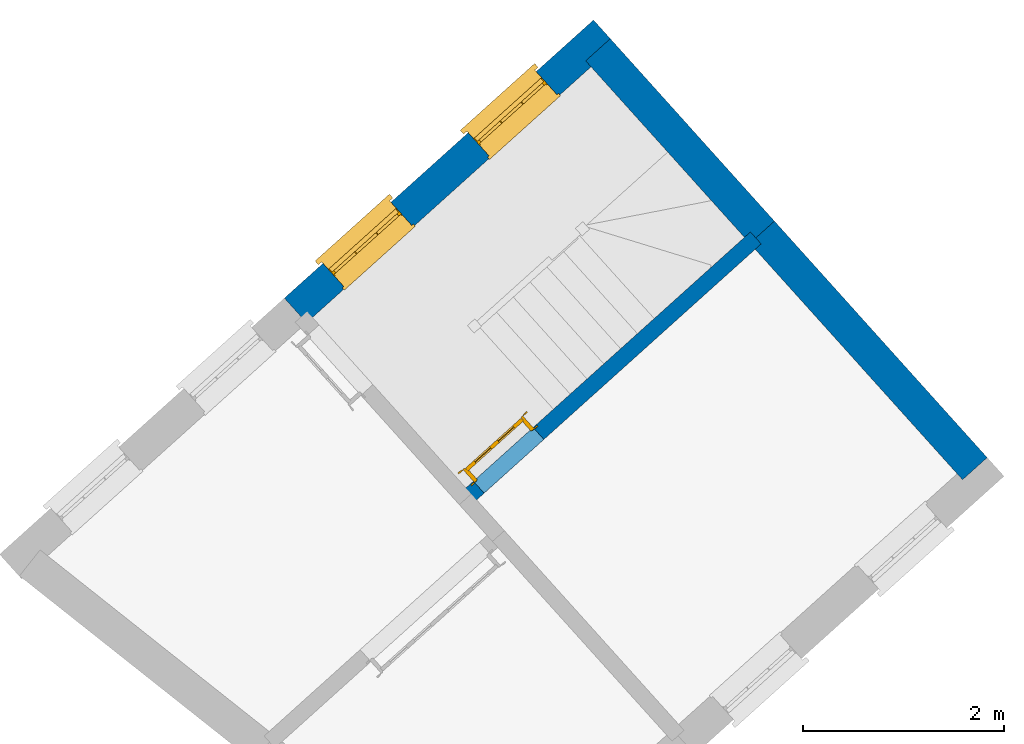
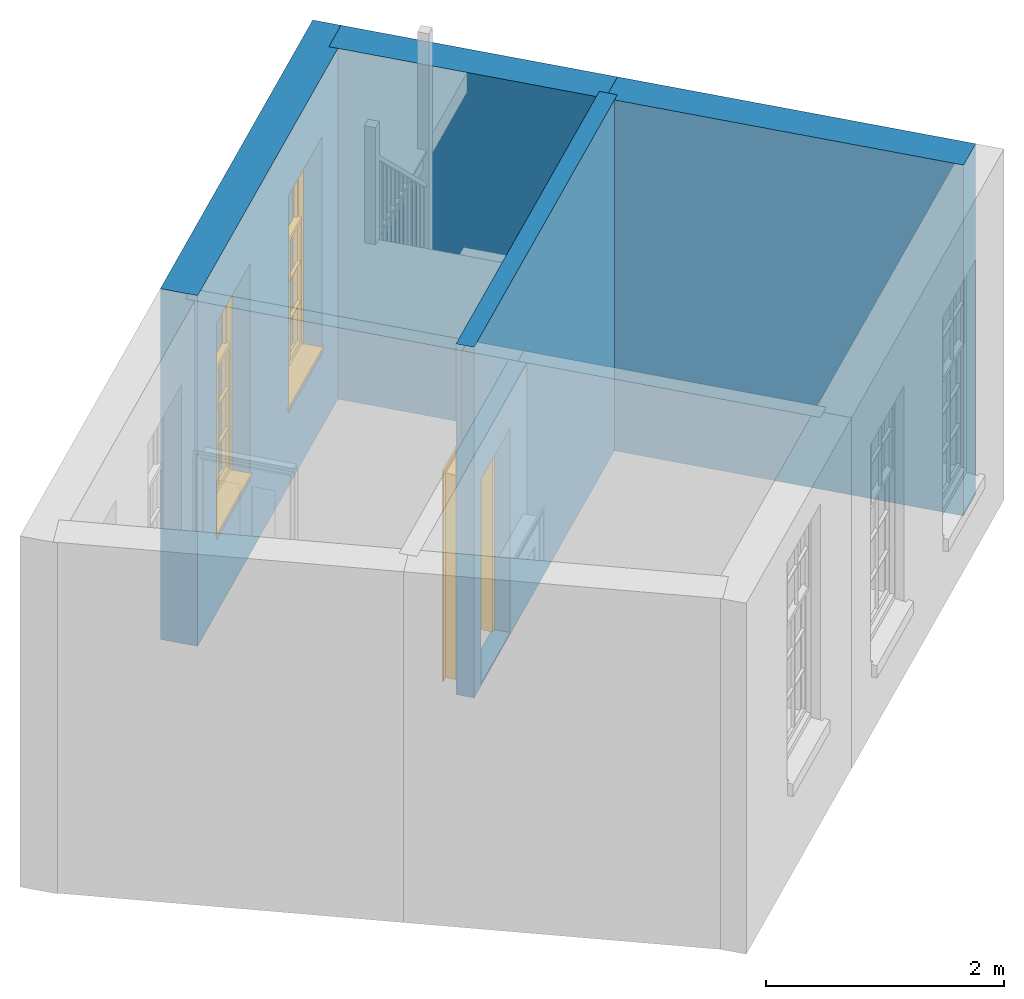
# One storey, part 3 of 4: 4 walls, 2 windows, 1 door, 3 openings.
"""IFC4 building model written with IfcOpenShell, lengths in metres."""

from ifc_helpers import new_model, si_unit, frame, origin, origin_with_axes, place, context, subcontext, project, spatial, polyline, outline, extrude, faceted_brep, source, transform, mapped, material, layer, layer_set, layer_usage, type_object, type_shapes, element, fill, save


model = new_model("IFC4")

# Units and contexts
model_context = context("Model", 3, world=origin_with_axes())
body_context = subcontext(model_context, "Body", "Model", "MODEL_VIEW")
ifc_project = project(units=[si_unit("PLANEANGLEUNIT", "RADIAN"), si_unit("MASSUNIT", "GRAM", prefix="KILO"), si_unit("FORCEUNIT", "NEWTON", prefix="KILO"), si_unit("LENGTHUNIT", "METRE"), si_unit("AREAUNIT", "SQUARE_METRE"), si_unit("VOLUMEUNIT", "CUBIC_METRE")], contexts=[model_context, model_context])

# Sites, building, storey
site_1_placement = place(None, origin_with_axes())
site_1 = spatial("IfcSite", under=ifc_project, at=site_1_placement, Name="Tamar")
site_2_placement = place(site_1_placement, origin_with_axes())
site_2 = spatial("IfcSite", under=site_1, at=site_2_placement, Name="Site plot-6", CompositionType="ELEMENT")
building_placement = place(None, origin_with_axes())
building = spatial("IfcBuilding", under=site_2, at=building_placement, Name="Building plot-6", CompositionType="ELEMENT")
storey_placement = place(None, frame((0.0, 0.0, 28.1), z_axis=(0.0, 0.0, 1.0), x_axis=(1.0, 0.0, 0.0)))
storey = spatial("IfcBuildingStorey", under=building, at=storey_placement, Name="plot-6 1", CompositionType="ELEMENT", Elevation=28.1)

# Wall, openings, windows
ifc_material_1 = material(Name="Masonry")
ifc_layer_1 = layer(ifc_material_1, 0.33, ventilated=False)
ifc_layer_set_1 = layer_set([ifc_layer_1], Name="exterior_0.08_0.25")
ifc_layer_usage_1 = layer_usage(ifc_layer_set_1, "AXIS2", "POSITIVE", -0.25)
wall_type_1 = type_object("IfcWallType", Name="exterior_0.08_0.25", PredefinedType="SOLIDWALL", material=ifc_layer_set_1)
wall_1_placement = place(storey_placement, frame((236.903086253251, 284.792318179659, 0.0), z_axis=(0.0, 0.0, 1.0), x_axis=(-0.743394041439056, -0.668853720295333, 0.0)))
wall_1 = element("IfcWall", 1, at=wall_1_placement, inside=storey, type_object=wall_type_1, material=ifc_layer_usage_1, Name="exterior", context=body_context, shape_type="SweptSolid", body=[
    extrude(outline(polyline([(-0.250000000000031, 0.0799999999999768), (-0.250000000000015, -0.250000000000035), (3.89063342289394, -0.250000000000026), (3.89063342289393, 0.0799999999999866), (-0.250000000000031, 0.0799999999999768)])), origin_with_axes(), (0.0, 0.0, 1.0), 3.6),
])
opening_1_placement = place(wall_1_placement, frame((0.51765835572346, 0.0, 0.75)))
opening_1 = element("IfcOpeningElement", 2, at=opening_1_placement, cuts=wall_1, Name="My Opening", ObjectType="Opening", context=body_context, shape_type="SweptSolid", body=[
    extrude(outline(polyline([(0.0, -0.270000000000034), (0.910000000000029, -0.269999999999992), (0.910000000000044, 1.10000000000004), (1.4432899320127e-14, 1.1), (0.0, -0.270000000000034)])), origin_with_axes(), (0.0, 0.0, 1.0), 2.23),
])
opening_2_placement = place(wall_1_placement, frame((2.46297506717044, 0.0, 0.75)))
opening_2 = element("IfcOpeningElement", 3, at=opening_2_placement, cuts=wall_1, Name="My Opening", ObjectType="Opening", context=body_context, shape_type="SweptSolid", body=[
    extrude(outline(polyline([(0.0, -0.270000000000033), (0.910000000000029, -0.269999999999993), (0.910000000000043, 1.10000000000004), (1.37667655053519e-14, 1.1), (0.0, -0.270000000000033)])), origin_with_axes(), (0.0, 0.0, 1.0), 2.23),
])
window_type = type_object("IfcWindowType", Name="sash_big_taller", PartitioningType="DOUBLE_PANEL_HORIZONTAL", PredefinedType="NOTDEFINED")
shared_shape_1 = source(origin(), body_context, "Body", "Brep", [
    faceted_brep([(0.033125, 0.145, 1.385209), (0.01, 0.145, 1.385209), (0.033125, 0.145, 1.786042), (0.876875, 0.145, 1.385209), (0.876875, 0.145, 1.786042), (0.9, 0.145, 1.385209), (0.876875, 0.145, 1.796042), (0.876875, 0.145, 2.196875), (0.9, 0.145, 2.22), (0.033125, 0.145, 2.196875), (0.033125, 0.145, 1.796042), (0.01, 0.145, 2.22), (0.876875, 0.115, 1.786042), (0.876875, 0.115, 1.385209), (0.9, 0.115, 1.347084), (0.033125, 0.115, 2.196875), (0.01, 0.115, 2.22), (0.033125, 0.115, 1.796042), (0.01, 0.115, 1.347084), (0.033125, 0.115, 1.385209), (0.033125, 0.115, 1.786042), (0.876875, 0.115, 2.196875), (0.876875, 0.115, 1.796042), (0.9, 0.115, 2.22), (0.033125, 0.145, 1.347084), (0.01, 0.145, 1.347084), (0.033125, 0.145, 0.94625), (0.876875, 0.145, 1.347084), (0.876875, 0.145, 0.94625), (0.9, 0.145, 1.347084), (0.876875, 0.145, 0.52625), (0.876875, 0.145, 0.125417), (0.9, 0.145, 0.077167), (0.033125, 0.145, 0.125417), (0.033125, 0.145, 0.52625), (0.01, 0.145, 0.077167), (-0.0425, 0.0, 0.01), (-0.0425, -0.05, 0.001667), (0.0, 0.0, 0.01), (0.9525, 0.0, 0.01), (0.91, 0.0, 0.01), (0.9525, -0.05, 0.001667), (-0.02, 0.33, 0.077167), (0.0, 0.33, 0.077167), (-0.02, 0.36, 0.077167), (0.0, 0.19, 0.077167), (0.01, 0.19, 0.077167), (0.91, 0.19, 0.077167), (0.91, 0.33, 0.077167), (0.9, 0.19, 0.077167), (0.93, 0.33, 0.077167), (0.93, 0.36, 0.077167), (0.01, 0.175, 1.385209), (0.9, 0.175, 1.385209), (0.876875, 0.175, 0.125417), (0.876875, 0.175, 0.52625), (0.9, 0.175, 0.077167), (0.876875, 0.175, 0.94625), (0.876875, 0.175, 1.347084), (0.033125, 0.175, 0.125417), (0.01, 0.175, 0.077167), (0.033125, 0.175, 0.52625), (0.033125, 0.175, 1.347084), (0.033125, 0.175, 0.94625), (-0.02, 0.33, 0.052167), (-0.02, 0.36, 0.052167), (0.93, 0.36, 0.052167), (0.93, 0.33, 0.052167), (0.91, 0.33, 0.052167), (0.0, 0.33, 0.052167), (0.91, 0.1, 0.026667), (0.0, 0.1, 0.026667), (-0.0425, -0.05, -0.123333), (0.9525, -0.05, -0.123333), (-0.0425, 0.0, -0.123333), (0.9525, 0.0, -0.123333), (0.01, 0.19, 2.22), (0.9, 0.19, 2.22), (0.0, 0.19, 2.23), (0.91, 0.19, 2.23), (0.01, 0.1, 0.077167), (0.9, 0.1, 0.077167), (0.592292, 0.145, 0.125417), (0.592292, 0.175, 0.125417), (0.317708, 0.175, 0.125417), (0.317708, 0.145, 0.125417), (0.592292, 0.145, 0.53625), (0.317708, 0.145, 0.53625), (0.317708, 0.145, 0.52625), (0.592292, 0.145, 0.52625), (0.592292, 0.175, 0.53625), (0.317708, 0.175, 0.53625), (0.592292, 0.115, 1.796042), (0.592292, 0.145, 1.796042), (0.317708, 0.145, 1.796042), (0.317708, 0.115, 1.796042), (0.317708, 0.115, 1.786042), (0.592292, 0.115, 1.786042), (0.317708, 0.145, 1.786042), (0.592292, 0.145, 1.786042), (0.602292, 0.115, 1.786042), (0.592292, 0.115, 1.385209), (0.602292, 0.115, 1.385209), (0.602292, 0.145, 1.385209), (0.592292, 0.145, 1.385209), (0.602292, 0.145, 1.786042), (0.876875, 0.145, 0.53625), (0.876875, 0.175, 0.53625), (0.602292, 0.175, 0.53625), (0.602292, 0.145, 0.53625), (0.317708, 0.175, 0.52625), (0.307708, 0.175, 0.125417), (0.307708, 0.175, 0.52625), (0.602292, 0.175, 0.52625), (0.602292, 0.175, 0.125417), (0.592292, 0.175, 0.52625), (0.307708, 0.175, 0.53625), (0.033125, 0.175, 0.53625), (0.317708, 0.175, 1.347084), (0.317708, 0.175, 0.94625), (0.307708, 0.175, 0.94625), (0.307708, 0.175, 1.347084), (0.602292, 0.175, 1.347084), (0.602292, 0.175, 0.94625), (0.592292, 0.175, 0.94625), (0.592292, 0.175, 1.347084), (0.307708, 0.145, 0.52625), (0.307708, 0.145, 0.125417), (0.307708, 0.145, 0.53625), (0.033125, 0.145, 0.53625), (0.307708, 0.145, 1.347084), (0.307708, 0.145, 0.94625), (0.592292, 0.145, 1.347084), (0.592292, 0.145, 0.94625), (0.317708, 0.145, 0.94625), (0.317708, 0.145, 1.347084), (0.602292, 0.145, 0.94625), (0.602292, 0.145, 1.347084), (0.602292, 0.145, 0.52625), (0.602292, 0.145, 0.125417), (0.307708, 0.115, 1.796042), (0.307708, 0.115, 1.786042), (0.307708, 0.115, 1.385209), (0.317708, 0.115, 1.385209), (0.317708, 0.115, 2.196875), (0.307708, 0.115, 2.196875), (0.602292, 0.115, 2.196875), (0.592292, 0.115, 2.196875), (0.602292, 0.115, 1.796042), (0.602292, 0.145, 1.796042), (0.307708, 0.145, 1.796042), (0.307708, 0.145, 2.196875), (0.317708, 0.145, 2.196875), (0.592292, 0.145, 2.196875), (0.602292, 0.145, 2.196875), (0.307708, 0.145, 1.786042), (0.317708, 0.145, 1.385209), (0.307708, 0.145, 1.385209), (0.876875, 0.175, 0.93625), (0.033125, 0.175, 0.93625), (0.033125, 0.145, 0.93625), (0.876875, 0.145, 0.93625), (0.91, 0.1, 2.23), (0.9, 0.1, 2.22), (0.01, 0.1, 2.22), (0.0, 0.1, 2.23), (0.91, 0.0, 0.0), (0.0, 0.0, 0.0), (0.91, 0.33, 0.0), (0.0, 0.33, 0.0), (0.317708, 0.145, 0.93625), (0.592292, 0.145, 0.93625), (0.317708, 0.175, 0.93625), (0.307708, 0.175, 0.93625), (0.602292, 0.175, 0.93625), (0.592292, 0.175, 0.93625), (0.307708, 0.145, 0.93625), (0.602292, 0.145, 0.93625)], [[[0, 1, 2]], [[3, 4, 5]], [[6, 7, 8]], [[9, 10, 11]], [[12, 13, 14]], [[15, 16, 17]], [[18, 19, 20]], [[21, 22, 23]], [[24, 25, 26]], [[27, 28, 29]], [[30, 31, 32]], [[33, 34, 35]], [[14, 27, 29]], [[25, 24, 18]], [[36, 37, 38]], [[39, 40, 41]], [[42, 43, 44]], [[45, 46, 43]], [[47, 48, 49]], [[50, 51, 48]], [[1, 0, 52]], [[5, 53, 3]], [[54, 55, 56]], [[57, 58, 53]], [[59, 60, 61]], [[62, 63, 52]], [[48, 43, 46, 49]], [[51, 44, 43, 48]], [[64, 42, 44, 65]], [[65, 44, 51, 66]], [[66, 51, 50, 67]], [[65, 66, 68, 69]], [[60, 56, 49, 46]], [[70, 71, 38, 40]], [[37, 41, 40, 38]], [[37, 72, 73, 41]], [[74, 75, 73, 72]], [[8, 11, 76, 77]], [[76, 78, 79, 77]], [[32, 35, 80, 81]], [[81, 80, 71, 70]], [[82, 83, 84, 85]], [[86, 87, 88, 89]], [[86, 90, 91, 87]], [[92, 93, 94, 95]], [[92, 95, 96, 97]], [[96, 98, 99, 97]], [[100, 97, 101, 102]], [[103, 104, 99, 105]], [[97, 99, 104, 101]], [[102, 103, 105, 100]], [[106, 107, 108, 109]], [[110, 84, 111, 112]], [[113, 114, 83, 115]], [[116, 112, 61, 117]], [[90, 115, 110, 91]], [[118, 119, 120, 121]], [[122, 123, 124, 125]], [[113, 108, 107, 55]], [[126, 112, 111, 127]], [[34, 61, 112, 126]], [[89, 115, 83, 82]], [[88, 110, 115, 89]], [[85, 84, 110, 88]], [[128, 116, 117, 129]], [[130, 121, 120, 131]], [[132, 125, 124, 133]], [[134, 119, 118, 135]], [[136, 123, 122, 137]], [[138, 113, 55, 30]], [[139, 114, 113, 138]], [[138, 30, 106, 109]], [[88, 126, 127, 85]], [[138, 89, 82, 139]], [[137, 132, 133, 136]], [[128, 129, 34, 126]], [[135, 130, 131, 134]], [[140, 17, 20, 141]], [[96, 141, 142, 143]], [[144, 145, 140, 95]], [[146, 147, 92, 148]], [[100, 12, 22, 148]], [[149, 6, 4, 105]], [[94, 150, 151, 152]], [[149, 93, 153, 154]], [[99, 98, 94, 93]], [[155, 2, 10, 150]], [[156, 157, 155, 98]], [[141, 155, 157, 142]], [[20, 2, 155, 141]], [[143, 156, 98, 96]], [[140, 150, 10, 17]], [[145, 151, 150, 140]], [[147, 153, 93, 92]], [[95, 94, 152, 144]], [[22, 6, 149, 148]], [[148, 149, 154, 146]], [[100, 105, 4, 12]], [[109, 86, 89, 138]], [[108, 113, 115, 90]], [[91, 110, 112, 116]], [[87, 128, 126, 88]], [[97, 100, 148, 92]], [[141, 96, 95, 140]], [[98, 155, 150, 94]], [[105, 99, 93, 149]], [[143, 101, 104, 156]], [[135, 118, 125, 132]], [[144, 152, 153, 147]], [[127, 111, 59, 33]], [[15, 9, 151, 145]], [[146, 154, 7, 21]], [[31, 54, 114, 139]], [[36, 74, 72, 37]], [[39, 41, 73, 75]], [[18, 14, 101, 143]], [[23, 16, 144, 147]], [[83, 56, 60, 84]], [[52, 53, 125, 118]], [[53, 52, 156, 104]], [[11, 8, 153, 152]], [[14, 18, 135, 132]], [[2, 1, 11, 10]], [[8, 5, 4, 6]], [[57, 53, 56, 158]], [[60, 52, 63, 159]], [[26, 25, 35, 160]], [[32, 29, 28, 161]], [[14, 23, 22, 12]], [[18, 20, 17, 16]], [[19, 0, 2, 20]], [[17, 10, 9, 15]], [[12, 4, 3, 13]], [[21, 7, 6, 22]], [[27, 58, 57, 28]], [[30, 55, 54, 31]], [[33, 59, 61, 34]], [[26, 63, 62, 24]], [[5, 8, 77, 53]], [[76, 11, 1, 52]], [[46, 45, 78, 76]], [[49, 77, 79, 47]], [[70, 162, 163, 81]], [[71, 80, 164, 165]], [[19, 142, 157, 0]], [[102, 13, 3, 103]], [[121, 130, 24, 62]], [[29, 32, 81, 14]], [[80, 35, 25, 18]], [[60, 46, 76, 52]], [[77, 49, 56, 53]], [[23, 14, 81, 163]], [[16, 164, 80, 18]], [[35, 85, 127]], [[127, 33, 35]], [[139, 82, 32]], [[32, 31, 139]], [[32, 82, 85, 35]], [[102, 101, 14]], [[14, 13, 102]], [[18, 143, 142]], [[142, 19, 18]], [[146, 21, 23]], [[23, 147, 146]], [[16, 15, 145]], [[145, 144, 16]], [[11, 152, 151]], [[151, 9, 11]], [[154, 153, 8]], [[8, 7, 154]], [[23, 163, 164, 16]], [[162, 165, 164, 163]], [[52, 118, 121]], [[121, 62, 52]], [[125, 53, 122]], [[58, 122, 53]], [[27, 137, 122, 58]], [[56, 83, 114]], [[114, 54, 56]], [[111, 84, 60]], [[60, 59, 111]], [[137, 27, 14]], [[14, 132, 137]], [[130, 135, 18]], [[18, 24, 130]], [[157, 156, 52]], [[52, 0, 157]], [[103, 3, 53]], [[53, 104, 103]], [[79, 78, 165, 162]], [[78, 45, 71, 165]], [[162, 70, 47, 79]], [[166, 75, 74, 167]], [[68, 66, 67]], [[48, 68, 67, 50]], [[69, 64, 65]], [[42, 64, 69, 43]], [[69, 68, 168, 169]], [[70, 68, 48, 47]], [[166, 168, 68, 70]], [[43, 69, 71, 45]], [[69, 169, 167, 71]], [[168, 166, 167, 169]], [[38, 167, 74, 36]], [[71, 167, 38]], [[39, 75, 166, 40]], [[40, 166, 70]], [[133, 134, 170, 171]], [[133, 124, 119, 134]], [[28, 57, 123, 136]], [[172, 91, 116, 173]], [[174, 108, 90, 175]], [[120, 173, 159, 63]], [[124, 175, 172, 119]], [[174, 123, 57, 158]], [[176, 173, 116, 128]], [[160, 159, 173, 176]], [[171, 175, 90, 86]], [[170, 172, 175, 171]], [[87, 91, 172, 170]], [[131, 120, 63, 26]], [[177, 174, 158, 161]], [[109, 108, 174, 177]], [[177, 161, 28, 136]], [[170, 176, 128, 87]], [[177, 171, 86, 109]], [[131, 26, 160, 176]], [[136, 133, 171, 177]], [[123, 174, 175, 124]], [[119, 172, 173, 120]], [[134, 131, 176, 170]], [[129, 117, 159, 160]], [[161, 158, 107, 106]], [[35, 34, 129]], [[35, 129, 160]], [[32, 106, 30]], [[32, 161, 106]], [[56, 55, 107]], [[56, 107, 158]], [[60, 117, 61]], [[60, 159, 117]]]),
])
type_shapes(window_type, [shared_shape_1])
window_1_placement = place(storey_placement, frame((236.337671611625, 284.64679685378, 0.75), z_axis=(0.0, 0.0, 1.0), x_axis=(-0.676488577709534, -0.608656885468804, 0.0)))
window_1 = element("IfcWindow", 4, at=window_1_placement, inside=storey, type_object=window_type, Name="circulation outside window", OverallHeight=2.23, OverallWidth=0.91, context=body_context, shape_type="MappedRepresentation", body=[
    mapped(shared_shape_1, transform((0.0, 0.0, 0.0), scale=1.0)),
])
fill(opening_1, window_1)
window_2_placement = place(storey_placement, frame((234.891534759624, 283.345664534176, 0.75), z_axis=(0.0, 0.0, 1.0), x_axis=(-0.676488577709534, -0.608656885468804, 0.0)))
window_2 = element("IfcWindow", 5, at=window_2_placement, inside=storey, type_object=window_type, Name="circulation outside window", OverallHeight=2.23, OverallWidth=0.91, context=body_context, shape_type="MappedRepresentation", body=[
    mapped(shared_shape_1, transform((0.0, 0.0, 0.0), scale=1.0)),
])
fill(opening_2, window_2)

# Walls
ifc_material_2 = material(Name="Masonry")
ifc_layer_2 = layer(ifc_material_2, 0.33, ventilated=False)
ifc_layer_set_2 = layer_set([ifc_layer_2], Name="party_0.08_0.25")
ifc_layer_usage_2 = layer_usage(ifc_layer_set_2, "AXIS2", "POSITIVE", -0.25)
wall_type_2 = type_object("IfcWallType", Name="party_0.08_0.25", PredefinedType="SOLIDWALL", material=ifc_layer_set_2)
wall_2_placement = place(storey_placement, frame((240.655799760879, 280.621383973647, 0.0), z_axis=(0.0, 0.0, 1.0), x_axis=(-0.668853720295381, 0.743394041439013, 0.0)))
element("IfcWall", 6, at=wall_2_placement, inside=storey, type_object=wall_type_2, material=ifc_layer_usage_2, Name="party", context=body_context, shape_type="SweptSolid", body=[
    extrude(outline(polyline([(-2.09120248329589e-15, 0.080000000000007), (-6.97909697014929e-15, -0.250000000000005), (3.16673048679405, -0.250000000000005), (3.16673048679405, 0.0800000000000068), (-2.09120248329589e-15, 0.080000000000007)])), origin_with_axes(), (0.0, 0.0, 1.0), 3.6),
])
wall_3_placement = place(storey_placement, frame((238.537720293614, 282.975512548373, 0.0), z_axis=(0.0, 0.0, 1.0), x_axis=(-0.668853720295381, 0.743394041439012, 0.0)))
element("IfcWall", 7, at=wall_3_placement, inside=storey, type_object=wall_type_2, material=ifc_layer_usage_2, Name="party", context=body_context, shape_type="SweptSolid", body=[
    extrude(outline(polyline([(-2.09120248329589e-15, 0.080000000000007), (-6.97909697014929e-15, -0.250000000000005), (2.44393353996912, -0.250000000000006), (2.44393353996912, 0.0800000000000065), (-2.09120248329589e-15, 0.080000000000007)])), origin_with_axes(), (0.0, 0.0, 1.0), 3.6),
])

# Wall, opening, door
ifc_material_3 = material(Name="Masonry")
ifc_layer_3 = layer(ifc_material_3, 0.16, ventilated=False)
ifc_layer_set_3 = layer_set([ifc_layer_3], Name="interior_0.08_0.08")
ifc_layer_usage_3 = layer_usage(ifc_layer_set_3, "AXIS2", "POSITIVE", -0.08)
wall_type_3 = type_object("IfcWallType", Name="interior_0.08_0.08", PredefinedType="SOLIDWALL", material=ifc_layer_set_3)
wall_4_placement = place(storey_placement, frame((235.645446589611, 280.373247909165, 0.0), z_axis=(0.0, 0.0, 1.0), x_axis=(0.743394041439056, 0.668853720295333, 0.0)))
wall_4 = element("IfcWall", 8, at=wall_4_placement, inside=storey, type_object=wall_type_3, material=ifc_layer_usage_3, Name="interior", context=body_context, shape_type="SweptSolid", body=[
    extrude(outline(polyline([(-2.62141283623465e-14, 0.0799999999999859), (2.62416891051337e-14, -0.0799999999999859), (3.89063342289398, -0.0799999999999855), (3.89063342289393, 0.0799999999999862), (-2.62141283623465e-14, 0.0799999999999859)])), origin_with_axes(), (0.0, 0.0, 1.0), 3.6),
])
opening_3_placement = place(wall_4_placement, frame((0.179999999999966, 0.0, 0.0199999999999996)))
opening_3 = element("IfcOpeningElement", 9, at=opening_3_placement, cuts=wall_4, Name="My Opening", ObjectType="Opening", context=body_context, shape_type="SweptSolid", body=[
    extrude(outline(polyline([(0.0, -0.100000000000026), (0.800000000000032, -0.0999999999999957), (0.800000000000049, 1.10000000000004), (1.62092561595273e-14, 1.10000000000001), (0.0, -0.100000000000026)])), origin_with_axes(), (0.0, 0.0, 1.0), 2.1),
])
door_type = type_object("IfcDoorType", Name="door_inside", OperationType="SINGLE_SWING_LEFT", PredefinedType="NOTDEFINED")
shared_shape_2 = source(origin(), body_context, "Body", "Brep", [
    faceted_brep([(0.773, 0.33, 1.895), (0.66, 0.33, 1.895), (0.66, 0.33, 2.073), (0.773, 0.33, 2.073), (0.773, 0.33, 0.82), (0.66, 0.33, 0.82), (0.45, 0.33, 1.895), (0.45, 0.33, 2.073), (0.773, 0.33, 0.62), (0.66, 0.33, 0.62), (0.66, 0.315, 0.82), (0.66, 0.315, 1.895), (0.45, 0.315, 1.895), (0.35, 0.33, 1.895), (0.35, 0.33, 2.073), (0.773, 0.33, 0.225), (0.66, 0.33, 0.225), (0.45, 0.33, 0.62), (0.45, 0.33, 0.82), (0.45, 0.315, 0.82), (0.35, 0.33, 0.82), (0.14, 0.33, 2.073), (0.14, 0.33, 1.895), (0.773, 0.33, 0.0), (0.66, 0.33, 0.0), (0.66, 0.315, 0.225), (0.66, 0.315, 0.62), (0.45, 0.315, 0.62), (0.35, 0.33, 0.62), (0.35, 0.315, 0.82), (0.35, 0.315, 1.895), (0.14, 0.315, 1.895), (0.027, 0.33, 2.073), (0.027, 0.33, 1.895), (0.773, 0.292, 0.0), (0.66, 0.292, 0.0), (0.45, 0.33, 0.0), (0.45, 0.33, 0.225), (0.45, 0.315, 0.225), (0.35, 0.33, 0.225), (0.14, 0.33, 0.82), (0.14, 0.33, 0.62), (0.14, 0.315, 0.82), (0.027, 0.33, 0.82), (0.773, 0.292, 0.225), (0.66, 0.292, 0.225), (0.45, 0.292, 0.0), (0.35, 0.33, 0.0), (0.35, 0.315, 0.225), (0.35, 0.315, 0.62), (0.14, 0.315, 0.62), (0.027, 0.33, 0.62), (0.773, 0.292, 0.62), (0.66, 0.292, 0.62), (0.45, 0.292, 0.225), (0.35, 0.292, 0.0), (0.14, 0.33, 0.225), (0.14, 0.33, 0.0), (0.14, 0.315, 0.225), (0.027, 0.33, 0.225), (0.773, 0.292, 0.82), (0.66, 0.292, 0.82), (0.66, 0.307, 0.62), (0.66, 0.307, 0.225), (0.45, 0.307, 0.225), (0.35, 0.292, 0.225), (0.14, 0.292, 0.0), (0.027, 0.33, 0.0), (0.773, 0.292, 1.895), (0.66, 0.292, 1.895), (0.45, 0.292, 0.62), (0.45, 0.292, 0.82), (0.45, 0.307, 0.62), (0.35, 0.292, 0.62), (0.14, 0.292, 0.225), (0.027, 0.292, 0.0), (0.773, 0.292, 2.073), (0.66, 0.292, 2.073), (0.66, 0.307, 1.895), (0.66, 0.307, 0.82), (0.45, 0.307, 0.82), (0.35, 0.292, 0.82), (0.35, 0.307, 0.62), (0.35, 0.307, 0.225), (0.14, 0.307, 0.225), (0.027, 0.292, 0.225), (0.45, 0.292, 1.895), (0.45, 0.292, 2.073), (0.45, 0.307, 1.895), (0.35, 0.292, 1.895), (0.14, 0.292, 0.82), (0.14, 0.292, 0.62), (0.14, 0.307, 0.62), (0.027, 0.292, 0.62), (0.35, 0.292, 2.073), (0.35, 0.307, 1.895), (0.35, 0.307, 0.82), (0.14, 0.307, 0.82), (0.027, 0.292, 0.82), (0.14, 0.292, 2.073), (0.14, 0.292, 1.895), (0.14, 0.307, 1.895), (0.027, 0.292, 1.895), (0.027, 0.292, 2.073), (0.02, 0.335, 0.0), (0.005, 0.34, 0.0), (0.005, 0.34, 2.095), (0.02, 0.335, 2.08), (0.02, 0.33, 0.0), (0.0, 0.335, 0.0), (0.0, 0.335, 2.1), (0.795, 0.34, 2.095), (0.78, 0.335, 2.08), (0.02, 0.33, 2.08), (0.0, 0.33, 0.0), (-0.032, 0.345, 0.0), (-0.032, 0.345, 2.132), (0.8, 0.335, 2.1), (0.795, 0.34, 0.0), (0.78, 0.335, 0.0), (0.78, 0.33, 2.08), (0.04, 0.29, 0.0), (0.025, 0.29, 0.0), (0.025, 0.29, 2.075), (0.04, 0.29, 2.06), (-0.04, 0.34, 0.0), (-0.04, 0.34, 2.14), (0.832, 0.345, 2.132), (0.8, 0.335, 0.0), (0.78, 0.33, 0.0), (0.8, 0.33, 0.0), (0.86, 0.33, 0.0), (0.86, 0.33, 2.16), (0.8, 0.33, 2.1), (-0.06, 0.33, 2.16), (0.0, 0.33, 2.1), (-0.06, 0.33, 0.0), (-0.04, 0.345, 0.0), (-0.04, 0.345, 2.14), (0.84, 0.34, 2.14), (0.832, 0.345, 0.0), (0.84, 0.34, 0.0), (0.86, 0.345, 0.0), (0.86, 0.345, 2.16), (-0.06, 0.345, 2.16), (-0.06, 0.345, 0.0), (0.84, 0.345, 0.0), (0.84, 0.345, 2.14), (-0.025, 0.155, 0.0), (-0.025, 0.16, 0.0), (-0.025, 0.16, 2.125), (-0.025, 0.155, 2.125), (-0.017, 0.155, 0.0), (-0.017, 0.155, 2.117), (0.825, 0.16, 2.125), (0.825, 0.155, 2.125), (0.825, 0.155, 0.0), (0.845, 0.155, 0.0), (-0.045, 0.155, 2.145), (-0.045, 0.155, 0.0), (0.845, 0.155, 2.145), (0.015, 0.165, 0.0), (0.015, 0.165, 2.085), (0.817, 0.155, 2.117), (0.825, 0.16, 0.0), (0.845, 0.17, 0.0), (0.845, 0.17, 2.145), (-0.045, 0.17, 2.145), (-0.045, 0.17, 0.0), (0.02, 0.16, 0.0), (0.02, 0.16, 2.08), (0.785, 0.165, 2.085), (0.817, 0.155, 0.0), (0.8, 0.17, 0.0), (0.8, 0.17, 2.1), (0.0, 0.17, 2.1), (0.0, 0.17, 0.0), (0.035, 0.165, 0.0), (0.035, 0.165, 2.065), (0.78, 0.16, 2.08), (0.785, 0.165, 0.0), (0.775, 0.29, 2.075), (0.76, 0.29, 2.06), (0.035, 0.17, 2.065), (0.035, 0.17, 0.0), (0.765, 0.165, 2.065), (0.78, 0.16, 0.0), (0.765, 0.17, 0.0), (0.765, 0.17, 2.065), (0.765, 0.165, 0.0), (0.04, 0.17, 2.06), (0.04, 0.17, 0.0), (0.76, 0.17, 2.06), (0.76, 0.17, 0.0), (0.76, 0.29, 0.0), (0.775, 0.29, 0.0), (0.025, 0.33, 0.0), (0.025, 0.33, 2.075), (0.775, 0.33, 0.0), (0.775, 0.33, 2.075)], [[[0, 1, 2, 3]], [[1, 0, 4, 5]], [[1, 6, 7, 2]], [[8, 9, 5, 4]], [[1, 5, 10, 11]], [[6, 1, 11, 12]], [[6, 13, 14, 7]], [[15, 16, 9, 8]], [[9, 17, 18, 5]], [[5, 18, 19, 10]], [[10, 19, 12, 11]], [[18, 6, 12, 19]], [[18, 20, 13, 6]], [[21, 14, 13, 22]], [[23, 24, 16, 15]], [[9, 16, 25, 26]], [[17, 9, 26, 27]], [[17, 28, 20, 18]], [[13, 20, 29, 30]], [[22, 13, 30, 31]], [[32, 21, 22, 33]], [[34, 35, 24, 23]], [[24, 36, 37, 16]], [[16, 37, 38, 25]], [[25, 38, 27, 26]], [[37, 17, 27, 38]], [[37, 39, 28, 17]], [[40, 20, 28, 41]], [[20, 40, 42, 29]], [[31, 30, 29, 42]], [[40, 22, 31, 42]], [[33, 22, 40, 43]], [[35, 34, 44, 45]], [[35, 46, 36, 24]], [[36, 47, 39, 37]], [[28, 39, 48, 49]], [[41, 28, 49, 50]], [[43, 40, 41, 51]], [[45, 44, 52, 53]], [[46, 35, 45, 54]], [[46, 55, 47, 36]], [[56, 39, 47, 57]], [[39, 56, 58, 48]], [[50, 49, 48, 58]], [[56, 41, 50, 58]], [[51, 41, 56, 59]], [[53, 52, 60, 61]], [[45, 53, 62, 63]], [[54, 45, 63, 64]], [[55, 46, 54, 65]], [[55, 66, 57, 47]], [[59, 56, 57, 67]], [[61, 60, 68, 69]], [[70, 53, 61, 71]], [[53, 70, 72, 62]], [[72, 64, 63, 62]], [[70, 54, 64, 72]], [[65, 54, 70, 73]], [[65, 74, 66, 55]], [[67, 57, 66, 75]], [[69, 68, 76, 77]], [[61, 69, 78, 79]], [[71, 61, 79, 80]], [[73, 70, 71, 81]], [[65, 73, 82, 83]], [[74, 65, 83, 84]], [[74, 85, 75, 66]], [[86, 69, 77, 87]], [[69, 86, 88, 78]], [[88, 80, 79, 78]], [[86, 71, 80, 88]], [[81, 71, 86, 89]], [[73, 81, 90, 91]], [[73, 91, 92, 82]], [[83, 82, 92, 84]], [[91, 74, 84, 92]], [[91, 93, 85, 74]], [[89, 86, 87, 94]], [[81, 89, 95, 96]], [[90, 81, 96, 97]], [[90, 98, 93, 91]], [[94, 99, 100, 89]], [[89, 100, 101, 95]], [[101, 97, 96, 95]], [[100, 90, 97, 101]], [[100, 102, 98, 90]], [[99, 103, 102, 100]], [[32, 103, 99, 21]], [[102, 103, 32, 33]], [[98, 102, 33, 43]], [[21, 99, 94, 14]], [[94, 87, 7, 14]], [[7, 87, 77, 2]], [[76, 3, 2, 77]], [[43, 51, 93, 98]], [[51, 59, 85, 93]], [[67, 75, 85, 59]], [[34, 23, 15, 44]], [[44, 15, 8, 52]], [[52, 8, 4, 60]], [[0, 68, 60, 4]], [[0, 3, 76, 68]], [[104, 105, 106, 107]], [[104, 108, 109, 105]], [[105, 109, 110, 106]], [[107, 106, 111, 112]], [[107, 113, 108, 104]], [[114, 109, 108]], [[109, 115, 116, 110]], [[106, 110, 117, 111]], [[112, 111, 118, 119]], [[113, 107, 112, 120]], [[121, 122, 123, 124]], [[115, 109, 114, 125]], [[115, 125, 126, 116]], [[110, 116, 127, 117]], [[111, 117, 128, 118]], [[118, 128, 129, 119]], [[120, 112, 119, 129]], [[130, 129, 128]], [[130, 131, 132, 133]], [[133, 132, 134, 135]], [[135, 134, 136, 114]], [[136, 125, 114]], [[125, 137, 138, 126]], [[116, 126, 139, 127]], [[117, 127, 140, 128]], [[141, 130, 128, 140]], [[131, 130, 141]], [[131, 142, 143, 132]], [[132, 143, 144, 134]], [[134, 144, 145, 136]], [[137, 125, 136, 145]], [[143, 142, 146]], [[143, 146, 147]], [[137, 145, 144]], [[143, 147, 138]], [[138, 137, 144]], [[143, 138, 144]], [[126, 138, 147, 139]], [[127, 139, 141, 140]], [[142, 131, 141, 146]], [[139, 147, 146, 141]], [[148, 149, 150, 151]], [[149, 152, 153, 150]], [[151, 150, 154, 155]], [[155, 156, 157]], [[158, 159, 148]], [[158, 148, 151]], [[155, 157, 160]], [[158, 151, 155]], [[155, 160, 158]], [[152, 161, 162, 153]], [[150, 153, 163, 154]], [[155, 154, 164, 156]], [[156, 164, 165, 157]], [[157, 165, 166, 160]], [[160, 166, 167, 158]], [[158, 167, 168, 159]], [[161, 169, 170, 162]], [[153, 162, 171, 163]], [[154, 163, 172, 164]], [[165, 164, 173]], [[165, 173, 174, 166]], [[166, 174, 175, 167]], [[167, 175, 176, 168]], [[169, 177, 178, 170]], [[162, 170, 179, 171]], [[163, 171, 180, 172]], [[172, 180, 173, 164]], [[124, 123, 181, 182]], [[183, 178, 177, 184]], [[170, 178, 185, 179]], [[171, 179, 186, 180]], [[187, 173, 180]], [[185, 188, 187, 189]], [[188, 185, 178, 183]], [[179, 185, 189, 186]], [[189, 187, 180, 186]], [[190, 183, 184, 191]], [[192, 188, 183, 190]], [[191, 184, 122, 121]], [[124, 190, 191, 121]], [[193, 187, 188, 192]], [[182, 192, 190, 124]], [[184, 176, 122]], [[194, 195, 187, 193]], [[192, 182, 194, 193]], [[161, 176, 184]], [[114, 108, 122, 176]], [[173, 187, 195]], [[152, 149, 176, 161]], [[169, 161, 184, 177]], [[196, 122, 108]], [[176, 175, 135, 114]], [[173, 195, 129, 130]], [[176, 149, 168]], [[123, 122, 196, 197]], [[196, 108, 113, 197]], [[175, 174, 133, 135]], [[198, 129, 195]], [[133, 174, 173, 130]], [[159, 168, 149, 148]], [[181, 123, 197, 199]], [[197, 113, 120, 199]], [[199, 120, 129, 198]], [[195, 181, 199, 198]], [[195, 194, 182, 181]]]),
])
type_shapes(door_type, [shared_shape_2])
door_placement = place(storey_placement, frame((235.8461428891, 280.419302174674, 0.0199999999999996), z_axis=(0.0, 0.0, 1.0), x_axis=(0.594715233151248, 0.535082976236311, 0.0)))
door = element("IfcDoor", 10, at=door_placement, inside=storey, type_object=door_type, Name="bedroom inside door", OverallHeight=2.1, OverallWidth=0.8, context=body_context, shape_type="MappedRepresentation", body=[
    mapped(shared_shape_2, transform((0.0, 0.0, 0.0), scale=1.0)),
])
fill(opening_3, door)

save(model, "model.ifc")
